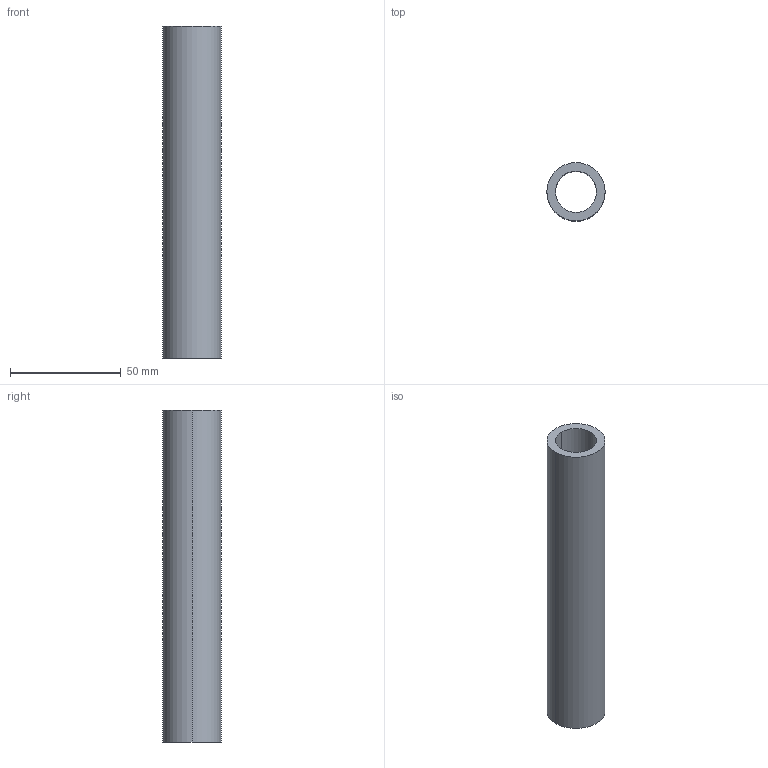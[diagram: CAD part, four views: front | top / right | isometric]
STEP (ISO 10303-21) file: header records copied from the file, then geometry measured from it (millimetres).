
FILE_DESCRIPTION (( 'STEP AP203' ), '1' );
FILE_NAME ('19-0408-64_outokumpu.step', '2015-08-11T09:39:21', ( '' ), ( '' ), 'SwSTEP 2.0', 'SolidWorks 2008', '' );
FILE_SCHEMA (( 'CONFIG_CONTROL_DESIGN' ));
Length unit declared in the file: millimetre
Products named in the file (1): 19-0408-64_outokumpu
Bounding box: 26.3 x 26.3 x 150 mm (x, y, z)
Volume: 39539.5 mm3; surface area: 21769.8 mm2
Topology: 1 solids, 1 shells, 12 faces, 26 edges, 16 vertices
Faces by surface type: cylinder 6, cone 4, plane 2
Entity records: 415 total; most frequent: DIRECTION 68, CARTESIAN_POINT 55, ORIENTED_EDGE 52, AXIS2_PLACEMENT_3D 29, EDGE_CURVE 26, CIRCLE 16, VERTEX_POINT 16, EDGE_LOOP 14
